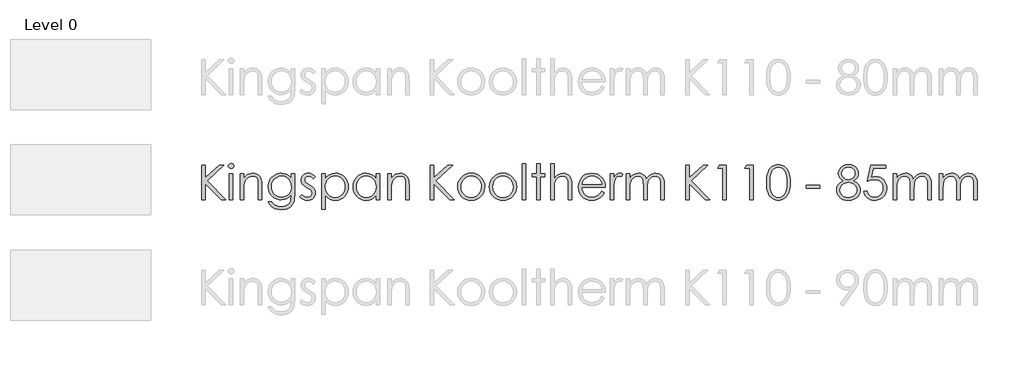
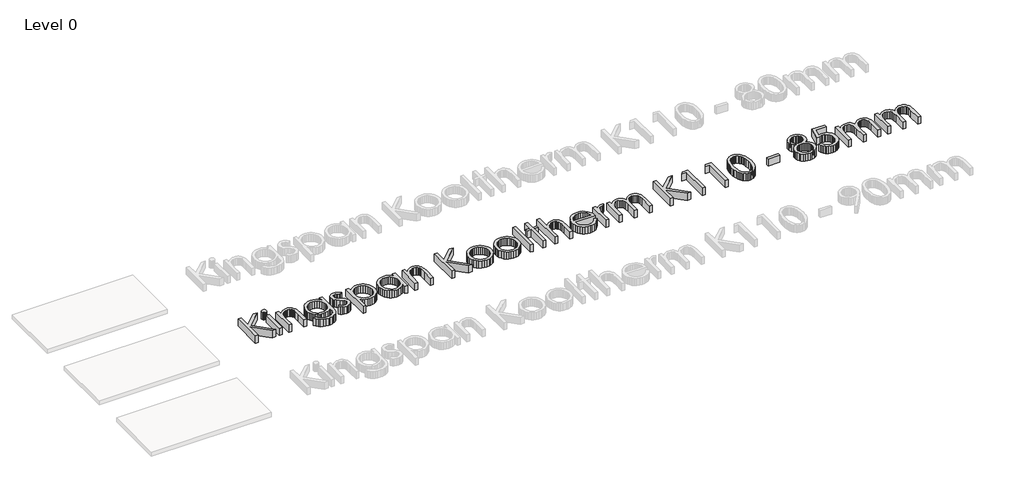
# One storey, part 5 of 9: 1 proxy.
"""IFC4 building model written with IfcOpenShell, lengths in millimetres."""

import ifcopenshell
import ifcopenshell.guid

model = None  # the IFC model being written
_history = None  # IfcOwnerHistory: only IFC2X3 demands one
_inside = {}  # id of a spatial element -> (the spatial element, [elements in it])
_under = {}  # id of a project, library or spatial element -> (it, [spatial elements below it])
_declared = {}  # id of a project -> (the project, [libraries it declares])
_typed = {}  # id of a type object -> (the type object, [elements of that type])
_made_of = {}  # id of a material, layer set ... -> (it, [elements and type objects made of it])


def new_model(schema):
    """Start an empty IFC model of exactly this schema.

    Asked for "IFC4X3", IfcOpenShell would pick the latest addendum, in which some entities
    have other attributes; the version numbers below select the first issue.
    IFC2X3 requires an IfcOwnerHistory on every rooted entity: one is made here for all.
    """
    global model, _history
    if schema == "IFC4X3":
        model = ifcopenshell.file(schema_version=(4, 3, 0, 0))
    else:
        model = ifcopenshell.file(schema=schema)
    _inside.clear()
    _under.clear()
    _declared.clear()
    _typed.clear()
    _made_of.clear()
    _history = None
    if model.schema == "IFC2X3":
        org = make("IfcOrganization", Name="unknown")
        user = make(
            "IfcPersonAndOrganization",
            ThePerson=make("IfcPerson", FamilyName="unknown"),
            TheOrganization=org,
        )
        app = make(
            "IfcApplication",
            ApplicationDeveloper=org,
            Version="unknown",
            ApplicationFullName="unknown",
            ApplicationIdentifier="unknown",
        )
        _history = make(
            "IfcOwnerHistory",
            OwningUser=user,
            OwningApplication=app,
            ChangeAction="ADDED",
            CreationDate=0,
        )
    return model


def make(cls, **values):
    """One entity of the class cls with the attributes given. An attribute that is None is left unset."""
    return model.create_entity(
        cls, **{name: value for name, value in values.items() if value is not None}
    )


def rooted(cls, **values):
    """An entity with a GlobalId (a new one), such as an element, a storey or a relation."""
    return make(cls, GlobalId=ifcopenshell.guid.new(), OwnerHistory=_history, **values)


def si_unit(unit_type, name, prefix=None):
    """IfcSIUnit, for example si_unit("LENGTHUNIT", "METRE", prefix="MILLI")."""
    return make("IfcSIUnit", UnitType=unit_type, Prefix=prefix, Name=name)


def assignment(units):
    """IfcUnitAssignment: the units of a project."""
    return None if units is None else make("IfcUnitAssignment", Units=units)


def point(xyz):
    """IfcCartesianPoint."""
    return None if xyz is None else make("IfcCartesianPoint", Coordinates=xyz)


def direction(xyz):
    """IfcDirection."""
    return None if xyz is None else make("IfcDirection", DirectionRatios=xyz)


def frame(location, z_axis=None, x_axis=None):
    """IfcAxis2Placement3D, a coordinate frame: its origin and axes. An axis left out is left unset."""
    return make(
        "IfcAxis2Placement3D",
        Location=point(location),
        Axis=direction(z_axis),
        RefDirection=direction(x_axis),
    )


def origin():
    """The frame at (0, 0, 0) with its axes left unset."""
    return frame((0.0, 0.0, 0.0))


def origin_with_axes():
    """The frame at (0, 0, 0) with the z axis (0, 0, 1) and the x axis (1, 0, 0) written out."""
    return frame((0.0, 0.0, 0.0), z_axis=(0.0, 0.0, 1.0), x_axis=(1.0, 0.0, 0.0))


def place(relative_to, where):
    """IfcLocalPlacement: puts the frame where relative to a parent placement (None: the world)."""
    return make(
        "IfcLocalPlacement", PlacementRelTo=relative_to, RelativePlacement=where
    )


def context(
    kind, dimensions, precision=None, world=None, true_north=None, identifier=None
):
    """IfcGeometricRepresentationContext, for example the 3D "Model" context."""
    return make(
        "IfcGeometricRepresentationContext",
        ContextIdentifier=identifier,
        ContextType=kind,
        CoordinateSpaceDimension=dimensions,
        Precision=precision,
        WorldCoordinateSystem=world,
        TrueNorth=true_north,
    )


def project(units=None, contexts=None):
    """IfcProject with its units and contexts."""
    return rooted(
        "IfcProject",
        Name="project",
        RepresentationContexts=contexts,
        UnitsInContext=assignment(units),
    )


def spatial(cls, under=None, at=None, **own):
    """A site, building, storey or space (cls), placed at a placement, below another one or the project."""
    s = rooted(cls, ObjectPlacement=at, **own)
    if under is not None:
        _under.setdefault(under.id(), (under, []))[1].append(s)
    return s


def polyline(points):
    """IfcPolyline through the points."""
    return make("IfcPolyline", Points=[point(p) for p in points])


def outline(outer, holes=None, kind="AREA"):
    """IfcArbitraryClosedProfileDef: a profile drawn as a closed curve; with holes, ...WithVoids."""
    if holes is None:
        return make("IfcArbitraryClosedProfileDef", ProfileType=kind, OuterCurve=outer)
    return make(
        "IfcArbitraryProfileDefWithVoids",
        ProfileType=kind,
        OuterCurve=outer,
        InnerCurves=holes,
    )


def extrude(swept, where, along, depth):
    """IfcExtrudedAreaSolid: the profile swept, set in the frame where, extruded along a direction by depth."""
    return make(
        "IfcExtrudedAreaSolid",
        SweptArea=swept,
        Position=where,
        ExtrudedDirection=direction(along),
        Depth=depth,
    )


def shape(context_of_items, identifier, shape_type, items):
    """IfcShapeRepresentation: the items that make up one representation, for example the "Body"."""
    return make(
        "IfcShapeRepresentation",
        ContextOfItems=context_of_items,
        RepresentationIdentifier=identifier,
        RepresentationType=shape_type,
        Items=items,
    )


def made_of(thing, what):
    """Note that an element or type object is made of a material, layer set ...; save() writes the relation."""
    if what is not None:
        _made_of.setdefault(what.id(), (what, []))[1].append(thing)
    return thing


def element(
    cls,
    number,
    at=None,
    inside=None,
    cuts=None,
    type_object=None,
    material=None,
    context=None,
    identifier="Body",
    shape_type=None,
    held_by="IfcProductDefinitionShape",
    body=None,
    shapes=None,
    **own,
):
    """One element of the class cls, such as IfcWall. Its Tag is "e" and its number.

    at: its placement. inside: the storey or other place that contains it. cuts: it is an
    opening in that element (IfcRelVoidsElement). A single representation is given by context,
    identifier, shape_type and body (its items); several are given by shapes. held_by: the class
    of the entity that holds the representations. save() writes the other relations.
    """
    e = rooted(cls, Tag="e%d" % number, ObjectPlacement=at, **own)
    if body is not None:
        shapes = [shape(context, identifier, shape_type, body)]
    if shapes is not None:
        e.Representation = make(held_by, Representations=shapes)
    if inside is not None:
        _inside.setdefault(inside.id(), (inside, []))[1].append(e)
    if cuts is not None:
        rooted(
            "IfcRelVoidsElement", RelatingBuildingElement=cuts, RelatedOpeningElement=e
        )
    if type_object is not None:
        _typed.setdefault(type_object.id(), (type_object, []))[1].append(e)
    return made_of(e, material)


def aggregate(whole, parts):
    """IfcRelAggregates: a whole, such as a stair, and the parts it consists of."""
    return rooted("IfcRelAggregates", RelatingObject=whole, RelatedObjects=parts)


def save(model, path):
    """Write the relations noted so far, then the file.

    IfcRelAggregates (storeys below a building ...), IfcRelContainedInSpatialStructure (elements
    in a storey), IfcRelDefinesByType, IfcRelAssociatesMaterial and IfcRelDeclares: one each for
    every whole, place, type object, material and project.
    """
    for whole, parts in _under.values():
        aggregate(whole, parts)
    for where, things in _inside.values():
        rooted(
            "IfcRelContainedInSpatialStructure",
            RelatedElements=things,
            RelatingStructure=where,
        )
    for kind, things in _typed.values():
        rooted("IfcRelDefinesByType", RelatedObjects=things, RelatingType=kind)
    for what, things in _made_of.values():
        rooted("IfcRelAssociatesMaterial", RelatedObjects=things, RelatingMaterial=what)
    for by, libraries in _declared.values():
        rooted("IfcRelDeclares", RelatingContext=by, RelatedDefinitions=libraries)
    model.write(path)


model = new_model("IFC4")

# Units and contexts
model_context = context("Model", 3, world=origin())
ifc_project = project(units=[si_unit("LENGTHUNIT", "METRE", prefix="MILLI")], contexts=[model_context])

# Site, building, storey
site = spatial("IfcSite", under=ifc_project)
building = spatial("IfcBuilding", under=site)
storey = spatial("IfcBuildingStorey", under=building, Name="Level 0", Elevation=0.0)

# Proxy
placement = place(None, origin())
element("IfcBuildingElementProxy", 1, Name="600mm KI_CenturyGothic", ObjectType="600mm KI_CenturyGothic", at=placement, inside=storey, context=model_context, shape_type="SweptSolid", body=[
    extrude(outline(polyline([(-3852.2663848, -1299.1034017), (-3792.944575, -1299.1034017), (-3792.944575, -1518.316027), (-3555.1938841, -1299.1034017), (-3471.6181051, -1299.1034017), (-3760.9664119, -1566.0515459), (-3441.9572002, -1892.3214999), (-3520.8984627, -1892.3214999), (-3792.944575, -1614.0960325), (-3792.944575, -1892.3214999), (-3852.2663848, -1892.3214999), (-3852.2663848, -1299.1034017)])), origin_with_axes(), (0.0, 0.0, 1.0), 150.0),
    extrude(outline(polyline([(-3348.1854852, -1269.4424967), (-3329.145347, -1272.7252792), (-3313.1176445, -1282.5736265), (-3302.226531, -1297.0178693), (-3298.5961598, -1314.088338), (-3302.226531, -1330.9270809), (-3313.1176445, -1345.2940817), (-3329.145347, -1355.142429), (-3348.1854852, -1358.4252115), (-3366.9938975, -1355.142429), (-3382.9443581, -1345.2940817), (-3393.8354717, -1330.9270809), (-3397.4658428, -1314.088338), (-3393.8354717, -1297.0178693), (-3382.9443581, -1282.5736265), (-3366.9938975, -1272.7252792), (-3348.1854852, -1269.4424967)])), origin_with_axes(), (0.0, 0.0, 1.0), 150.0),
    extrude(outline(polyline([(-3377.6919062, -1447.4079262), (-3318.3700964, -1447.4079262), (-3318.3700964, -1892.3214999), (-3377.6919062, -1892.3214999), (-3377.6919062, -1447.4079262)])), origin_with_axes(), (0.0, 0.0, 1.0), 150.0),
    extrude(outline(polyline([(-3189.8395084, -1447.4079262), (-3130.5176986, -1447.4079262), (-3130.5176986, -1526.5036726), (-3096.9946967, -1486.9944204), (-3060.0730495, -1459.303185), (-3019.7141359, -1442.9665147), (-2975.879335, -1437.5209579), (-2953.4357238, -1439.0995901), (-2932.2955704, -1443.8354865), (-2912.4588747, -1451.7286472), (-2893.9256368, -1462.7790723), (-2877.212412, -1476.5039994), (-2862.835756, -1492.4206667), (-2841.0921499, -1530.8292213), (-2833.6238199, -1555.2087086), (-2828.2892984, -1585.5551357), (-2824.0216812, -1664.1488095), (-2824.0216812, -1892.3214999), (-2883.343491, -1892.3214999), (-2883.343491, -1679.1337458), (-2883.343491, -1576.092998), (-2884.7290183, -1555.2956057), (-2889.8125035, -1537.2403023), (-2898.2849788, -1521.9270877), (-2910.1464442, -1509.355962), (-2924.7403432, -1499.5558909), (-2941.4101193, -1492.5558401), (-2980.977303, -1486.9557994), (-3005.3471351, -1489.1137461), (-3028.4038541, -1495.5875862), (-3050.1474602, -1506.3773197), (-3070.5779533, -1521.4829466), (-3088.6622225, -1539.7651482), (-3103.3671568, -1560.084606), (-3114.6927562, -1582.44132), (-3122.6390208, -1606.8352901), (-3128.5480292, -1653.9142525), (-3130.5176986, -1728.4141035), (-3130.5176986, -1892.3214999), (-3189.8395084, -1892.3214999), (-3189.8395084, -1447.4079262)])), origin_with_axes(), (0.0, 0.0, 1.0), 150.0),
    extrude(outline(polyline([(-2319.7862977, -1447.4079262), (-2260.4644879, -1447.4079262), (-2260.4644879, -1798.395301), (-2264.5196897, -1878.6496765), (-2269.588692, -1909.4499001), (-2276.6852953, -1934.0321474), (-2289.9371156, -1962.6454585), (-2307.2924139, -1987.7732271), (-2328.7511904, -2009.4154531), (-2354.3134448, -2027.5721366), (-2383.3226209, -2041.9343098), (-2415.122162, -2052.1930049), (-2449.7120682, -2058.348222), (-2487.0923395, -2060.3999611), (-2541.0458345, -2056.3833802), (-2589.206184, -2044.3336376), (-2630.260275, -2025.5059147), (-2662.8949946, -2001.1553932), (-2690.2000204, -1967.8061856), (-2715.2650299, -1921.9824048), (-2655.94322, -1921.9824048), (-2642.4355358, -1943.151524), (-2627.0933555, -1961.3951046), (-2609.9166791, -1976.7131468), (-2590.9055067, -1989.1056506), (-2569.7894914, -1998.6691682), (-2546.2982864, -2005.5002523), (-2492.1903075, -2010.9651195), (-2438.5071593, -2005.6354257), (-2415.083541, -1998.9733084), (-2393.93856, -1989.6463441), (-2359.6624492, -1965.6047903), (-2336.8567664, -1936.1176798), (-2329.3884364, -1917.4782342), (-2324.0539149, -1893.7697863), (-2319.7862977, -1831.1458835), (-2319.7862977, -1808.4367532), (-2354.757586, -1844.2190818), (-2396.6420279, -1870.6165148), (-2443.392712, -1886.8952536), (-2492.9627269, -1892.3214999), (-2522.4063889, -1890.4242447), (-2550.9521133, -1884.7324793), (-2578.5999001, -1875.2462036), (-2605.3497494, -1861.9654175), (-2630.1540674, -1845.4742634), (-2651.9652601, -1826.3568832), (-2670.7833277, -1804.6132772), (-2686.6082702, -1780.2434451), (-2699.1456025, -1753.9280817), (-2708.1008399, -1726.3478816), (-2713.4739824, -1697.5028447), (-2715.2650299, -1667.392971), (-2713.3967404, -1637.1044753), (-2707.7918722, -1607.8780563), (-2698.4504251, -1579.713714), (-2685.3723991, -1552.6114483), (-2668.9971079, -1527.4257483), (-2649.7638648, -1505.0111029), (-2627.67267, -1485.367512), (-2602.7235235, -1468.4949758), (-2575.9833294, -1454.943843), (-2548.5189922, -1445.2644624), (-2520.3305117, -1439.456834), (-2491.4178881, -1437.5209579), (-2444.5320306, -1442.4644421), (-2400.8903346, -1457.2948945), (-2359.6045177, -1483.8661218), (-2319.7862977, -1524.0319306), (-2319.7862977, -1447.4079262)]), holes=[polyline([(-2484.1571458, -1486.9557994), (-2529.0154023, -1492.9806707), (-2570.5908765, -1511.0552847), (-2606.2187212, -1539.7699758), (-2633.2340897, -1577.7150788), (-2650.2659375, -1621.9940208), (-2655.94322, -1669.7102292), (-2653.0080263, -1705.6229036), (-2644.2024452, -1738.2817613), (-2629.5264766, -1767.6868023), (-2608.9801206, -1793.8380266), (-2583.7606272, -1815.296803), (-2555.0652466, -1830.6245004), (-2522.8939786, -1839.8211189), (-2487.2468234, -1842.8866584), (-2451.3244937, -1839.845257), (-2419.1001219, -1830.7210528), (-2390.573708, -1815.5140459), (-2365.7452519, -1794.2242363), (-2345.6382095, -1767.9812872), (-2331.2760363, -1737.9148621), (-2322.6587323, -1704.024961), (-2319.7862977, -1666.3115838), (-2325.0773706, -1617.6105407), (-2340.9505892, -1574.3936754), (-2366.4983608, -1538.1672056), (-2400.8130926, -1510.4373492), (-2440.9982119, -1492.8261869), (-2484.1571458, -1486.9557994)])]), origin_with_axes(), (0.0, 0.0, 1.0), 150.0),
    extrude(outline(polyline([(-1904.5336289, -1498.6965743), (-1940.9918246, -1536.390641), (-1962.9575012, -1514.7628978), (-1984.6721416, -1499.3145098), (-2006.1357456, -1490.045477), (-2027.3483133, -1486.9557994), (-2052.181597, -1491.6289368), (-2073.2300256, -1505.6483489), (-2087.5970264, -1525.8857371), (-2092.3860267, -1549.212803), (-2088.4466878, -1570.7633042), (-2076.628671, -1591.2324183), (-2052.0657341, -1613.400855), (-2010.2006027, -1639.122421), (-1958.3326401, -1671.9888664), (-1939.8428507, -1687.8138088), (-1926.315856, -1703.2332311), (-1909.9791857, -1735.9065716), (-1904.5336289, -1772.4420092), (-1906.9474396, -1798.5884059), (-1914.1888714, -1822.6492701), (-1926.2579245, -1844.624602), (-1943.1545989, -1864.5144015), (-1963.6719892, -1881.0055557), (-1986.6031901, -1892.7849515), (-2011.9482016, -1899.852589), (-2039.7070237, -1902.2084682), (-2077.4397114, -1898.3270607), (-2113.3958344, -1886.6828383), (-2145.4512394, -1868.2027042), (-2171.4817731, -1843.8135617), (-2135.7959969, -1803.3387852), (-2114.0041146, -1824.9665283), (-2091.5749863, -1840.4149163), (-2068.5086121, -1849.6839491), (-2044.8049918, -1852.7736267), (-2013.637869, -1847.1349651), (-1987.4914724, -1830.2189802), (-1969.7644472, -1805.6560434), (-1963.8554388, -1777.0765256), (-1967.7561567, -1753.2860081), (-1979.4583106, -1732.2762005), (-2005.0253927, -1710.5712154), (-2050.2119275, -1683.7682622), (-2099.762632, -1653.1032121), (-2117.441381, -1637.9444814), (-2130.3890611, -1622.9016136), (-2146.3781427, -1590.7689666), (-2151.7078365, -1554.310771), (-2149.5305794, -1530.2643896), (-2142.9988078, -1508.3325063), (-2132.1125219, -1488.5151211), (-2116.8717217, -1470.812234), (-2098.309518, -1456.2473007), (-2077.4590218, -1445.8437769), (-2054.3202332, -1439.6016627), (-2028.8931521, -1437.5209579), (-1997.9481, -1441.3444339), (-1966.9064954, -1452.814862), (-1935.7683384, -1471.9322421), (-1904.5336289, -1498.6965743)])), origin_with_axes(), (0.0, 0.0, 1.0), 150.0),
    extrude(outline(polyline([(-1795.7769776, -1447.4079262), (-1736.4551678, -1447.4079262), (-1736.4551678, -1528.5119631), (-1700.9238754, -1488.2689124), (-1660.4490989, -1459.9211205), (-1614.9922173, -1443.1209986), (-1564.5146096, -1437.5209579), (-1520.0618732, -1441.7596094), (-1478.9305402, -1454.4755637), (-1441.1206107, -1475.668821), (-1406.6320845, -1505.3393811), (-1377.9077381, -1540.9768811), (-1357.3903478, -1580.070958), (-1345.0799137, -1622.6216116), (-1340.9764356, -1668.628842), (-1345.0412927, -1715.5291824), (-1357.235864, -1758.7508754), (-1377.5601494, -1798.293921), (-1406.014149, -1834.1583192), (-1440.2130179, -1863.9302594), (-1477.7719111, -1885.1959309), (-1518.6908288, -1897.9553339), (-1562.9697708, -1902.2084682), (-1612.6170277, -1896.743601), (-1658.0545988, -1880.3489992), (-1699.3211052, -1853.1019049), (-1736.4551678, -1815.07956), (-1736.4551678, -2050.5129928), (-1795.7769776, -2050.5129928), (-1795.7769776, -1447.4079262)]), holes=[polyline([(-1568.5311905, -1486.9557994), (-1602.5852307, -1490.2530647), (-1633.8392507, -1500.1448607), (-1662.2932503, -1516.6311872), (-1687.9472295, -1539.7120444), (-1709.1694525, -1567.6977647), (-1724.3281832, -1598.8986808), (-1733.4234216, -1633.3147926), (-1736.4551678, -1670.9461002), (-1731.048232, -1719.8016272), (-1714.8274246, -1763.4819442), (-1688.5265441, -1800.3263495), (-1652.8793888, -1828.6741414), (-1611.4390881, -1846.7487554), (-1567.7587711, -1852.7736267), (-1525.0632888, -1846.7101344), (-1485.0326535, -1828.5196576), (-1450.2544701, -1799.4187567), (-1423.3163435, -1760.6239924), (-1406.05277, -1715.9588407), (-1400.2982454, -1669.2467775), (-1405.9948385, -1622.3029886), (-1423.0846177, -1577.8695627), (-1449.8103289, -1539.5189395), (-1484.414718, -1510.8235589), (-1524.7157001, -1492.9227393), (-1568.5311905, -1486.9557994)])]), origin_with_axes(), (0.0, 0.0, 1.0), 150.0),
    extrude(outline(polyline([(-807.0801472, -1447.4079262), (-807.0801472, -1892.3214999), (-866.401957, -1892.3214999), (-866.401957, -1816.4699149), (-903.4780882, -1854.3184655), (-944.8797679, -1881.0441767), (-990.4525125, -1896.9173953), (-1040.0418379, -1902.2084682), (-1084.3159523, -1897.9553339), (-1125.2203871, -1885.1959309), (-1162.7551422, -1863.9302594), (-1196.9202178, -1834.1583192), (-1225.340424, -1798.293921), (-1245.6405713, -1758.7508754), (-1257.8206597, -1715.5291824), (-1261.8806892, -1668.628842), (-1257.7820388, -1622.6216116), (-1245.4860875, -1580.070958), (-1224.9928353, -1540.9768811), (-1196.3022822, -1505.3393811), (-1161.8475494, -1475.668821), (-1124.061758, -1454.4755637), (-1082.9449079, -1441.7596094), (-1038.4969991, -1437.5209579), (-987.7490446, -1443.1209986), (-942.0990581, -1459.9211205), (-921.2051134, -1472.6081091), (-901.6242816, -1488.2689124), (-866.401957, -1528.5119631), (-866.401957, -1447.4079262), (-807.0801472, -1447.4079262)]), holes=[polyline([(-1034.3259343, -1486.9557994), (-1078.1414247, -1492.9227393), (-1118.4424068, -1510.8235589), (-1153.0467959, -1539.5189395), (-1179.7725071, -1577.8695627), (-1196.8622863, -1622.3029886), (-1202.5588794, -1669.2467775), (-1196.8043548, -1715.9588407), (-1179.5407813, -1760.6239924), (-1152.6026548, -1799.4187567), (-1117.8244713, -1828.5196576), (-1077.6779731, -1846.7101344), (-1034.6349021, -1852.7736267), (-991.0125165, -1846.7487554), (-949.7460102, -1828.6741414), (-914.2726493, -1800.3263495), (-888.0297002, -1763.4819442), (-871.8088928, -1719.8016272), (-866.401957, -1670.9461002), (-869.4337032, -1633.3147926), (-878.5289416, -1598.8986808), (-893.6876723, -1567.6977647), (-914.9098953, -1539.7120444), (-940.5638746, -1516.6311872), (-969.0178742, -1500.1448607), (-1000.2718941, -1490.2530647), (-1034.3259343, -1486.9557994)])]), origin_with_axes(), (0.0, 0.0, 1.0), 150.0),
    extrude(outline(polyline([(-668.662591, -1447.4079262), (-609.3407811, -1447.4079262), (-609.3407811, -1526.5036726), (-575.8177792, -1486.9944204), (-538.896132, -1459.303185), (-498.5372184, -1442.9665147), (-454.7024175, -1437.5209579), (-432.2588064, -1439.0995901), (-411.1186529, -1443.8354865), (-391.2819572, -1451.7286472), (-372.7487193, -1462.7790723), (-356.0354946, -1476.5039994), (-341.6588385, -1492.4206667), (-319.9152324, -1530.8292213), (-312.4469024, -1555.2087086), (-307.1123809, -1585.5551357), (-302.8447637, -1664.1488095), (-302.8447637, -1892.3214999), (-362.1665735, -1892.3214999), (-362.1665735, -1679.1337458), (-362.1665735, -1576.092998), (-363.5521008, -1555.2956057), (-368.635586, -1537.2403023), (-377.1080613, -1521.9270877), (-388.9695267, -1509.355962), (-403.5634257, -1499.5558909), (-420.2332018, -1492.5558401), (-459.8003855, -1486.9557994), (-484.1702176, -1489.1137461), (-507.2269366, -1495.5875862), (-528.9705427, -1506.3773197), (-549.4010358, -1521.4829466), (-567.485305, -1539.7651482), (-582.1902393, -1560.084606), (-593.5158387, -1582.44132), (-601.4621033, -1606.8352901), (-607.3711117, -1653.9142525), (-609.3407811, -1728.4141035), (-609.3407811, -1892.3214999), (-668.662591, -1892.3214999), (-668.662591, -1447.4079262)])), origin_with_axes(), (0.0, 0.0, 1.0), 150.0),
    extrude(outline(polyline([(62.9730635, -1299.1034017), (122.2948734, -1299.1034017), (122.2948734, -1518.316027), (360.0455643, -1299.1034017), (443.6213432, -1299.1034017), (154.2730365, -1566.0515459), (473.2822481, -1892.3214999), (394.3409856, -1892.3214999), (122.2948734, -1614.0960325), (122.2948734, -1892.3214999), (62.9730635, -1892.3214999), (62.9730635, -1299.1034017)])), origin_with_axes(), (0.0, 0.0, 1.0), 150.0),
    extrude(outline(polyline([(760.1588128, -1437.5209579), (809.4681362, -1442.1458191), (854.3553585, -1456.0204025), (894.8204798, -1479.1447083), (930.8635, -1511.5187363), (957.7630055, -1546.7507161), (976.9769381, -1585.091684), (988.5052976, -1626.54164), (992.3480841, -1671.1005841), (988.283227, -1715.9153921), (976.0886558, -1757.8239721), (955.7643703, -1796.8263241), (927.3103707, -1832.9224481), (892.4742558, -1863.2350819), (853.0036246, -1884.8869632), (808.8984769, -1897.8780919), (760.1588128, -1902.2084682), (711.2839754, -1897.8780919), (667.0822753, -1884.8869632), (627.5537126, -1863.2350819), (592.6982872, -1832.9224481), (564.2442876, -1796.8263241), (543.9200022, -1757.8239721), (531.7254309, -1715.9153921), (527.6605738, -1671.1005841), (531.5033603, -1626.7347449), (543.0317198, -1585.4006518), (562.2456524, -1547.0983049), (589.145158, -1511.8277041), (625.2074886, -1479.3185026), (665.7305413, -1456.0976445), (710.7143161, -1442.1651295), (760.1588128, -1437.5209579)]), holes=[polyline([(760.004329, -1486.9557994), (725.7282181, -1490.3303067), (693.9624704, -1500.4538284), (664.7070856, -1517.3263647), (637.962064, -1540.9479154), (615.6584538, -1569.3584664), (599.7273037, -1600.5980035), (590.1686137, -1634.6665266), (586.9823836, -1671.5640357), (592.7948396, -1719.2995546), (610.2322075, -1763.6364281), (637.5758543, -1801.4270471), (673.1071466, -1829.5238028), (714.6439998, -1846.9611707), (760.004329, -1852.7736267), (805.3646581, -1846.9611707), (846.9015113, -1829.5238028), (882.4328037, -1801.4270471), (909.7764504, -1763.6364281), (927.2138183, -1719.2995546), (933.0262743, -1671.5640357), (929.8255614, -1634.6665266), (920.2234227, -1600.5980035), (904.2198583, -1569.3584664), (881.8148681, -1540.9479154), (854.9974321, -1517.3263647), (825.7565303, -1500.4538284), (794.0921625, -1490.3303067), (760.004329, -1486.9557994)])]), origin_with_axes(), (0.0, 0.0, 1.0), 150.0),
    extrude(outline(polyline([(1303.9420695, -1437.5209579), (1353.2513929, -1442.1458191), (1398.1386152, -1456.0204025), (1438.6037365, -1479.1447083), (1474.6467567, -1511.5187363), (1501.5462622, -1546.7507161), (1520.7601948, -1585.091684), (1532.2885543, -1626.54164), (1536.1313408, -1671.1005841), (1532.0664837, -1715.9153921), (1519.8719125, -1757.8239721), (1499.547627, -1796.8263241), (1471.0936274, -1832.9224481), (1436.2575126, -1863.2350819), (1396.7868813, -1884.8869632), (1352.6817336, -1897.8780919), (1303.9420695, -1902.2084682), (1255.0672321, -1897.8780919), (1210.865532, -1884.8869632), (1171.3369693, -1863.2350819), (1136.4815439, -1832.9224481), (1108.0275443, -1796.8263241), (1087.7032589, -1757.8239721), (1075.5086876, -1715.9153921), (1071.4438305, -1671.1005841), (1075.286617, -1626.7347449), (1086.8149766, -1585.4006518), (1106.0289091, -1547.0983049), (1132.9284147, -1511.8277041), (1168.9907453, -1479.3185026), (1209.5137981, -1456.0976445), (1254.4975728, -1442.1651295), (1303.9420695, -1437.5209579)]), holes=[polyline([(1303.7875857, -1486.9557994), (1269.5114748, -1490.3303067), (1237.7457271, -1500.4538284), (1208.4903423, -1517.3263647), (1181.7453207, -1540.9479154), (1159.4417105, -1569.3584664), (1143.5105604, -1600.5980035), (1133.9518704, -1634.6665266), (1130.7656404, -1671.5640357), (1136.5780963, -1719.2995546), (1154.0154643, -1763.6364281), (1181.359111, -1801.4270471), (1216.8904033, -1829.5238028), (1258.4272565, -1846.9611707), (1303.7875857, -1852.7736267), (1349.1479149, -1846.9611707), (1390.684768, -1829.5238028), (1426.2160604, -1801.4270471), (1453.5597071, -1763.6364281), (1470.997075, -1719.2995546), (1476.809531, -1671.5640357), (1473.6088181, -1634.6665266), (1464.0066795, -1600.5980035), (1448.003115, -1569.3584664), (1425.5981249, -1540.9479154), (1398.7806889, -1517.3263647), (1369.539787, -1500.4538284), (1337.8754193, -1490.3303067), (1303.7875857, -1486.9557994)])]), origin_with_axes(), (0.0, 0.0, 1.0), 150.0),
    extrude(outline(polyline([(1635.0010238, -1279.3294651), (1694.3228337, -1279.3294651), (1694.3228337, -1892.3214999), (1635.0010238, -1892.3214999), (1635.0010238, -1279.3294651)])), origin_with_axes(), (0.0, 0.0, 1.0), 150.0),
    extrude(outline(polyline([(1882.1752314, -1279.3294651), (1941.4970413, -1279.3294651), (1941.4970413, -1447.4079262), (2020.5927877, -1447.4079262), (2020.5927877, -1496.8427677), (1941.4970413, -1496.8427677), (1941.4970413, -1892.3214999), (1882.1752314, -1892.3214999), (1882.1752314, -1496.8427677), (1803.079485, -1496.8427677), (1803.079485, -1447.4079262), (1882.1752314, -1447.4079262), (1882.1752314, -1279.3294651)])), origin_with_axes(), (0.0, 0.0, 1.0), 150.0),
    extrude(outline(polyline([(2119.4624707, -1279.3294651), (2178.7842806, -1279.3294651), (2178.7842806, -1528.0485114), (2212.5583188, -1488.3461544), (2249.6151394, -1460.0756044), (2289.9161216, -1443.1596195), (2333.4226442, -1437.5209579), (2355.8662553, -1439.0995901), (2377.0064088, -1443.8354865), (2396.8431044, -1451.7286472), (2415.3763424, -1462.7790723), (2432.0895671, -1476.4895166), (2446.4662232, -1492.3627352), (2468.2098293, -1530.5974955), (2475.6781593, -1554.9045684), (2481.0126808, -1585.2654784), (2485.280298, -1664.1488095), (2485.280298, -1892.3214999), (2425.9584882, -1892.3214999), (2425.9584882, -1679.1337458), (2424.5681332, -1614.752589), (2420.3970685, -1576.092998), (2406.879729, -1537.2403023), (2397.1665551, -1521.9270877), (2385.4837117, -1509.355962), (2371.840854, -1499.5558909), (2356.2476374, -1492.5558401), (2319.2101273, -1486.9557994), (2296.3416854, -1489.1137461), (2274.6994594, -1495.5875862), (2254.2834492, -1506.3773197), (2235.0936547, -1521.4829466), (2218.1052556, -1539.7651482), (2204.2934312, -1560.084606), (2193.6581816, -1582.44132), (2186.1995068, -1606.8352901), (2180.6380871, -1653.6825267), (2178.7842806, -1728.4141035), (2178.7842806, -1892.3214999), (2119.4624707, -1892.3214999), (2119.4624707, -1279.3294651)])), origin_with_axes(), (0.0, 0.0, 1.0), 150.0),
    extrude(outline(polyline([(2991.0605203, -1744.0169753), (3038.950523, -1769.1978477), (3013.3255094, -1811.0822896), (2984.0315038, -1844.0452875), (2950.952643, -1869.1296074), (2913.9730643, -1887.3780157), (2872.4941426, -1898.5008551), (2825.9172528, -1902.2084682), (2774.4258447, -1897.7767119), (2728.8627554, -1884.481443), (2689.227985, -1862.3226615), (2655.5215335, -1831.3003674), (2628.6220279, -1794.6973431), (2609.4080954, -1755.7963712), (2597.8797358, -1714.5974515), (2594.0369493, -1671.1005841), (2597.3197318, -1630.2202874), (2607.1680791, -1591.618628), (2623.5819913, -1555.2956057), (2646.5614684, -1521.2512207), (2682.7493173, -1484.6192308), (2724.5758277, -1458.4535236), (2772.0409998, -1442.7540993), (2825.1448334, -1437.5209579), (2879.7935059, -1442.8892727), (2928.6490329, -1458.9942172), (2971.7114143, -1485.8357913), (3008.9806503, -1523.4139951), (3030.4539096, -1555.585263), (3045.9022976, -1591.541386), (3055.3258143, -1631.2823641), (3058.7244596, -1674.8081972), (2653.3587591, -1674.8081972), (2657.095338, -1712.0629503), (2666.6057518, -1745.8128504), (2681.8900007, -1776.0578975), (2702.9480845, -1802.7980916), (2728.3124066, -1824.6623882), (2756.5153699, -1840.2797429), (2787.5569744, -1849.6501557), (2821.4372203, -1852.7736267), (2854.9602222, -1849.761191), (2887.5563208, -1840.7238841), (2917.2944677, -1826.6851615), (2942.2436143, -1808.668479), (2965.725164, -1782.5027719), (2991.0605203, -1744.0169753)]), holes=[polyline([(2999.4026498, -1625.3733557), (2984.9777175, -1582.8516678), (2965.1844704, -1549.8307385), (2939.0766947, -1524.3022774), (2905.7081767, -1504.257994), (2867.7630738, -1491.2813481), (2827.9255433, -1486.9557994), (2795.503239, -1489.6689226), (2765.4368139, -1497.808292), (2737.726268, -1511.3739077), (2712.3716012, -1530.3657696), (2695.8321708, -1548.179692), (2681.4362043, -1569.9522638), (2669.1837016, -1595.683485), (2659.0746627, -1625.3733557), (2999.4026498, -1625.3733557)])]), origin_with_axes(), (0.0, 0.0, 1.0), 150.0),
    extrude(outline(polyline([(3137.820206, -1447.4079262), (3197.1420159, -1447.4079262), (3197.1420159, -1511.8277041), (3222.6897875, -1478.7874643), (3249.589293, -1455.6728138), (3277.7632906, -1442.0589219), (3307.1345382, -1437.5209579), (3330.4616041, -1441.305813), (3355.3335087, -1452.6603781), (3325.8270877, -1494.6799934), (3297.2475699, -1486.9557994), (3270.8308265, -1492.9034288), (3245.3409863, -1510.7463169), (3223.2884125, -1541.1023993), (3207.183468, -1584.5896114), (3199.6523789, -1642.7141712), (3197.1420159, -1740.1548783), (3197.1420159, -1892.3214999), (3137.820206, -1892.3214999), (3137.820206, -1447.4079262)])), origin_with_axes(), (0.0, 0.0, 1.0), 150.0),
    extrude(outline(polyline([(3414.6553185, -1447.4079262), (3473.9771284, -1447.4079262), (3473.9771284, -1523.5684789), (3503.5607913, -1487.0716623), (3533.9168737, -1461.9294109), (3577.3268439, -1443.6230712), (3622.8995884, -1437.5209579), (3653.7384329, -1440.668567), (3682.9165757, -1450.1113941), (3708.6767627, -1464.7873627), (3729.2617397, -1483.634396), (3746.0425511, -1509.0663047), (3760.3902414, -1543.4968994), (3775.16759, -1519.0981017), (3791.6925376, -1497.808292), (3809.965084, -1479.6274704), (3829.9852293, -1464.5556369), (3851.2798666, -1452.7279648), (3873.375889, -1444.2796277), (3896.2732965, -1439.2106253), (3919.9720892, -1437.5209579), (3962.3006723, -1443.3334139), (3981.4952943, -1450.5989839), (3999.3768034, -1460.7707818), (4015.4914031, -1473.53984), (4029.385297, -1488.5971907), (4050.5109676, -1525.5767694), (4057.8103309, -1548.9521114), (4063.0241619, -1577.5219739), (4067.1952266, -1650.2452603), (4067.1952266, -1892.3214999), (4007.8734168, -1892.3214999), (4007.8734168, -1646.6921311), (4005.4209852, -1585.5744462), (3998.0636904, -1547.1272706), (3984.7587663, -1522.6608861), (3964.4634466, -1503.4855746), (3938.3942919, -1491.0882432), (3907.7678627, -1486.9557994), (3888.1194443, -1488.5054659), (3869.3399976, -1493.1544651), (3834.3880198, -1511.7504621), (3805.6540182, -1540.6968791), (3785.8800816, -1577.9468046), (3779.1889985, -1602.1042213), (3774.4096535, -1633.1747916), (3770.5861775, -1716.0553931), (3770.5861775, -1892.3214999), (3711.2643677, -1892.3214999), (3711.2643677, -1661.9860352), (3708.850557, -1593.530366), (3701.6091252, -1551.2983353), (3688.3621325, -1525.0553863), (3667.9316394, -1504.5669617), (3641.6114484, -1491.35859), (3610.6953619, -1486.9557994), (3573.7544042, -1492.9999812), (3539.2465676, -1511.1325266), (3510.2808401, -1539.499629), (3489.9662099, -1576.2474819), (3477.9743988, -1628.0768236), (3473.9771284, -1701.6883923), (3473.9771284, -1892.3214999), (3414.6553185, -1892.3214999), (3414.6553185, -1447.4079262)])), origin_with_axes(), (0.0, 0.0, 1.0), 150.0),
    extrude(outline(polyline([(4433.0130538, -1299.1034017), (4492.3348637, -1299.1034017), (4492.3348637, -1518.316027), (4730.0855546, -1299.1034017), (4813.6613335, -1299.1034017), (4524.3130268, -1566.0515459), (4843.3222385, -1892.3214999), (4764.3809759, -1892.3214999), (4492.3348637, -1614.0960325), (4492.3348637, -1892.3214999), (4433.0130538, -1892.3214999), (4433.0130538, -1299.1034017)])), origin_with_axes(), (0.0, 0.0, 1.0), 150.0),
    extrude(outline(polyline([(5010.6282802, -1299.1034017), (5125.1008351, -1299.1034017), (5125.1008351, -1892.3214999), (5065.7790253, -1892.3214999), (5065.7790253, -1348.5382432), (4976.7963106, -1348.5382432), (5010.6282802, -1299.1034017)])), origin_with_axes(), (0.0, 0.0, 1.0), 150.0),
    extrude(outline(polyline([(5475.3157905, -1299.1034017), (5589.7883454, -1299.1034017), (5589.7883454, -1892.3214999), (5530.4665356, -1892.3214999), (5530.4665356, -1348.5382432), (5441.4838208, -1348.5382432), (5475.3157905, -1299.1034017)])), origin_with_axes(), (0.0, 0.0, 1.0), 150.0),
    extrude(outline(polyline([(5817.1886164, -1595.8669347), (5818.7672485, -1541.4355052), (5823.503145, -1493.5406748), (5831.3963057, -1452.1824436), (5842.4467307, -1417.3608116), (5856.374418, -1387.7192172), (5872.8993655, -1361.9010988), (5892.0215733, -1339.9064564), (5913.7410412, -1321.73529), (5937.4350063, -1307.5082902), (5962.4807053, -1297.3461475), (5988.8781382, -1291.2488619), (6016.6273051, -1289.2164334), (6044.8302684, -1291.2633448), (6071.6621873, -1297.404079), (6097.1230617, -1307.638636), (6121.2128917, -1321.9670159), (6143.3958113, -1340.3843909), (6163.1359546, -1362.8859335), (6180.4333215, -1389.4716437), (6195.2879121, -1420.1415214), (6207.2169642, -1455.6583309), (6215.7377157, -1496.7848363), (6220.8501666, -1543.5210375), (6222.5543169, -1595.8669347), (6220.8743047, -1648.0535203), (6215.8342681, -1694.6207548), (6207.4342071, -1735.5686382), (6195.6741218, -1770.8971704), (6180.9643599, -1801.4222195), (6163.7152692, -1827.9596535), (6143.9268497, -1850.5094723), (6121.5991014, -1869.071676), (6097.3403047, -1883.5690226), (6071.7587397, -1893.9242701), (6044.8544066, -1900.1374187), (6016.6273051, -1902.2084682), (5988.9022764, -1900.2001778), (5962.5772577, -1894.1753064), (5937.6522492, -1884.1338543), (5914.1272509, -1870.0758212), (5892.5526116, -1852.0398282), (5873.4786801, -1830.0644964), (5856.9054564, -1804.1498255), (5842.8329404, -1774.2958158), (5831.6135487, -1739.2762513), (5823.5996974, -1697.8649163), (5818.7913866, -1650.0618107), (5817.1886164, -1595.8669347)]), holes=[polyline([(5876.5104262, -1595.7124508), (5880.8939063, -1684.038609), (5886.3732564, -1719.0195525), (5894.0443466, -1747.8790723), (5903.8589006, -1772.1185586), (5915.7686422, -1793.2394015), (5929.7735714, -1811.2416011), (5945.8736882, -1826.1251574), (5981.1732547, -1846.1115094), (5999.5761469, -1851.1080973), (6018.4811117, -1852.7736267), (6037.4729737, -1851.1418907), (6055.8275896, -1846.2466828), (6090.6250835, -1826.665851), (6106.3824393, -1811.9898824), (6120.1315046, -1794.0697524), (6131.8722794, -1772.9054608), (6141.6047639, -1748.4970078), (6151.0669015, -1715.1381451), (6157.8255712, -1678.5544313), (6163.232507, -1595.7124508), (6158.4048858, -1514.1063413), (6152.3703592, -1479.4150551), (6143.9220221, -1448.7982811), (6133.3398763, -1422.135329), (6120.903924, -1399.3055082), (6106.6141651, -1380.3088186), (6090.4705997, -1365.1452603), (6055.402759, -1345.2747712), (6037.1736612, -1340.307149), (6018.4811117, -1338.6512749), (5999.4651116, -1340.307149), (5981.0380814, -1345.2747712), (5945.9509302, -1365.1452603), (5930.0052972, -1379.9564022), (5916.0776099, -1397.8958428), (5904.1678683, -1418.9635819), (5894.2760724, -1443.1596195), (5886.5036022, -1472.0143117), (5880.9518378, -1507.0580143), (5876.5104262, -1595.7124508)])]), origin_with_axes(), (0.0, 0.0, 1.0), 150.0),
    extrude(outline(polyline([(6499.3894294, -1645.1472923), (6726.7897004, -1645.1472923), (6726.7897004, -1694.5821338), (6499.3894294, -1694.5821338), (6499.3894294, -1645.1472923)])), origin_with_axes(), (0.0, 0.0, 1.0), 150.0),
    extrude(outline(polyline([(7304.095959, -1568.2143202), (7356.1956474, -1599.6131687), (7376.0178602, -1616.8477766), (7391.6883188, -1635.1058401), (7403.5835775, -1654.5225327), (7412.0801909, -1675.2330279), (7417.1781589, -1697.2373255), (7418.8774816, -1720.5354256), (7416.0581508, -1753.2184214), (7407.6001584, -1783.9124373), (7393.5035044, -1812.6174732), (7373.7681887, -1839.3335291), (7343.0741729, -1866.841315), (7306.4518381, -1886.4897334), (7263.9011845, -1898.2787845), (7215.422212, -1902.2084682), (7168.7584251, -1898.756719), (7128.100199, -1888.4014714), (7093.4475337, -1871.1427255), (7064.8004292, -1846.9804812), (7042.3616457, -1818.6664826), (7026.3339432, -1788.9524739), (7016.7173217, -1757.838455), (7013.5117812, -1725.3244259), (7015.2255867, -1701.5966675), (7020.3670033, -1679.0758144), (7028.936031, -1657.7618666), (7040.9326698, -1637.6548241), (7056.8300266, -1618.6871003), (7077.1012082, -1600.7911083), (7101.7462146, -1583.9668483), (7130.7650459, -1568.2143202), (7092.3951123, -1543.2651736), (7065.0321551, -1512.9090912), (7048.6375533, -1478.6522909), (7043.1726861, -1442.0009904), (7048.9658316, -1404.2876133), (7066.345268, -1367.4625184), (7093.9592615, -1334.9436618), (7130.4560781, -1310.1489991), (7173.055008, -1294.4495748), (7218.9753412, -1289.2164334), (7263.7177349, -1294.4881958), (7304.9456203, -1310.3034829), (7340.1486344, -1335.1753876), (7366.8164141, -1367.6170023), (7383.6165361, -1404.7510649), (7389.2165767, -1443.7003131), (7383.9061933, -1481.2398959), (7367.9750432, -1514.45393), (7341.3845054, -1543.4196575), (7304.095959, -1568.2143202)]), holes=[polyline([(7219.284309, -1595.7124508), (7189.4158164, -1598.2228138), (7162.067342, -1605.753903), (7137.238886, -1618.3057182), (7114.9304482, -1635.8782595), (7096.5130732, -1656.7818595), (7083.3578053, -1679.3268507), (7075.4646446, -1703.5132331), (7072.833591, -1729.3410068), (7077.332934, -1761.4543433), (7090.830963, -1791.6752522), (7112.4007747, -1817.6092335), (7141.1154658, -1836.8617871), (7175.9902017, -1848.7956668), (7216.0401475, -1852.7736267), (7247.2603741, -1850.3549884), (7275.110921, -1843.0990737), (7299.5917884, -1831.0058825), (7320.702976, -1814.0754148), (7337.7010304, -1793.9104409), (7349.8424979, -1772.113731), (7357.1273783, -1748.6852851), (7359.5556718, -1723.6251032), (7356.9873773, -1699.2938921), (7349.2824938, -1676.353036), (7336.4410213, -1654.8025348), (7318.4629598, -1634.6423885), (7296.8545271, -1617.6105407), (7273.1219411, -1605.4449352), (7247.2652017, -1598.1455719), (7219.284309, -1595.7124508)]), polyline([(7216.0401475, -1338.6512749), (7192.5344597, -1340.5099091), (7171.14327, -1346.0858116), (7151.8665783, -1355.3789825), (7134.7043848, -1368.3894217), (7120.6125584, -1383.9778107), (7110.5469681, -1401.0048308), (7104.507614, -1419.4704821), (7102.4944959, -1439.3747645), (7104.6620978, -1459.2838745), (7111.1649037, -1478.2274602), (7122.0029133, -1496.2055217), (7137.1761269, -1513.218059), (7155.236258, -1527.6816122), (7174.7350202, -1538.0127217), (7195.6724135, -1544.2113874), (7218.048438, -1546.2776093), (7246.7631291, -1542.5313752), (7273.8943605, -1531.2926729), (7297.3565997, -1513.5463372), (7315.0643144, -1490.2772028), (7326.1871538, -1464.2273586), (7329.8947669, -1438.1388934), (7328.0699261, -1419.9677271), (7322.5954036, -1402.5303592), (7313.4711994, -1385.8267897), (7300.6973136, -1369.8570186), (7284.4571958, -1356.2045057), (7264.9342955, -1346.4527108), (7242.1286127, -1340.6016339), (7216.0401475, -1338.6512749)])]), origin_with_axes(), (0.0, 0.0, 1.0), 150.0),
    extrude(outline(polyline([(7853.904087, -1299.1034017), (7853.904087, -1348.5382432), (7646.5867204, -1348.5382432), (7612.1368152, -1509.5104459), (7649.7150189, -1500.0096873), (7683.3538838, -1496.8427677), (7722.9403779, -1500.2655512), (7758.8965009, -1510.5339016), (7791.2222528, -1527.6478189), (7819.9176335, -1551.6073031), (7843.4378041, -1580.9157917), (7860.2379261, -1614.076722), (7870.3179992, -1651.090094), (7873.6780236, -1691.9559079), (7871.9545628, -1720.9216353), (7866.7841805, -1748.6514917), (7858.1668766, -1775.1454771), (7846.1026511, -1800.4035914), (7831.0984042, -1823.6051391), (7813.6610363, -1843.9294246), (7793.7905473, -1861.3764477), (7771.4869371, -1875.9462086), (7747.054346, -1887.4359472), (7720.7969141, -1895.6429033), (7692.7146413, -1900.567077), (7662.8075277, -1902.2084682), (7627.4741679, -1899.4518965), (7595.008415, -1891.1821813), (7565.4102692, -1877.3993226), (7538.6797304, -1858.1033205), (7515.9271515, -1834.4334936), (7498.2628853, -1807.5291604), (7485.686932, -1777.390321), (7478.1992914, -1744.0169753), (7537.5211013, -1744.0169753), (7547.0991018, -1776.7482474), (7561.6205865, -1802.6436077), (7581.4524546, -1822.9582379), (7606.9616052, -1838.9473194), (7635.9852641, -1849.3170499), (7666.360657, -1852.7736267), (7695.6498351, -1849.8480882), (7722.8052045, -1841.0714728), (7747.8267654, -1826.4437804), (7770.7145178, -1805.9650111), (7789.8077598, -1781.0931065), (7803.4457898, -1753.2860081), (7811.6286078, -1722.543716), (7814.3562138, -1688.8662303), (7811.8941269, -1658.6791146), (7804.5078664, -1631.4561585), (7792.1974323, -1607.1973617), (7774.9628244, -1585.9027244), (7753.6054281, -1568.5667365), (7728.9266283, -1556.183888), (7700.9264251, -1548.754179), (7669.6048185, -1546.2776093), (7640.8997825, -1548.1314158), (7609.3174844, -1553.6928355), (7537.5211013, -1575.9385142), (7596.8429111, -1299.1034017), (7853.904087, -1299.1034017)])), origin_with_axes(), (0.0, 0.0, 1.0), 150.0),
    extrude(outline(polyline([(7982.4346749, -1447.4079262), (8041.7564848, -1447.4079262), (8041.7564848, -1523.5684789), (8071.3401477, -1487.0716623), (8101.6962301, -1461.9294109), (8145.1062003, -1443.6230712), (8190.6789448, -1437.5209579), (8221.5177893, -1440.668567), (8250.6959321, -1450.1113941), (8276.4561191, -1464.7873627), (8297.0410961, -1483.634396), (8313.8219075, -1509.0663047), (8328.1695978, -1543.4968994), (8342.9469464, -1519.0981017), (8359.471894, -1497.808292), (8377.7444404, -1479.6274704), (8397.7645856, -1464.5556369), (8419.0592229, -1452.7279648), (8441.1552454, -1444.2796277), (8464.0526529, -1439.2106253), (8487.7514456, -1437.5209579), (8530.0800287, -1443.3334139), (8549.2746507, -1450.5989839), (8567.1561598, -1460.7707818), (8583.2707595, -1473.53984), (8597.1646534, -1488.5971907), (8618.290324, -1525.5767694), (8625.5896873, -1548.9521114), (8630.8035182, -1577.5219739), (8634.974583, -1650.2452603), (8634.974583, -1892.3214999), (8575.6527732, -1892.3214999), (8575.6527732, -1646.6921311), (8573.2003416, -1585.5744462), (8565.8430468, -1547.1272706), (8552.5381227, -1522.6608861), (8532.242803, -1503.4855746), (8506.1736483, -1491.0882432), (8475.5472191, -1486.9557994), (8455.8988006, -1488.5054659), (8437.119354, -1493.1544651), (8402.1673762, -1511.7504621), (8373.4333746, -1540.6968791), (8353.659438, -1577.9468046), (8346.9683549, -1602.1042213), (8342.1890099, -1633.1747916), (8338.3655339, -1716.0553931), (8338.3655339, -1892.3214999), (8279.0437241, -1892.3214999), (8279.0437241, -1661.9860352), (8276.6299134, -1593.530366), (8269.3884816, -1551.2983353), (8256.1414889, -1525.0553863), (8235.7109958, -1504.5669617), (8209.3908048, -1491.35859), (8178.4747183, -1486.9557994), (8141.5337606, -1492.9999812), (8107.025924, -1511.1325266), (8078.0601965, -1539.499629), (8057.7455663, -1576.2474819), (8045.7537552, -1628.0768236), (8041.7564848, -1701.6883923), (8041.7564848, -1892.3214999), (7982.4346749, -1892.3214999), (7982.4346749, -1447.4079262)])), origin_with_axes(), (0.0, 0.0, 1.0), 150.0),
    extrude(outline(polyline([(8773.3921393, -1447.4079262), (8832.7139491, -1447.4079262), (8832.7139491, -1523.5684789), (8862.2976121, -1487.0716623), (8892.6536944, -1461.9294109), (8936.0636646, -1443.6230712), (8981.6364092, -1437.5209579), (9012.4752537, -1440.668567), (9041.6533964, -1450.1113941), (9067.4135834, -1464.7873627), (9087.9985604, -1483.634396), (9104.7793718, -1509.0663047), (9119.1270621, -1543.4968994), (9133.9044108, -1519.0981017), (9150.4293583, -1497.808292), (9168.7019047, -1479.6274704), (9188.72205, -1464.5556369), (9210.0166873, -1452.7279648), (9232.1127097, -1444.2796277), (9255.0101172, -1439.2106253), (9278.7089099, -1437.5209579), (9321.037493, -1443.3334139), (9340.232115, -1450.5989839), (9358.1136241, -1460.7707818), (9374.2282238, -1473.53984), (9388.1221177, -1488.5971907), (9409.2477883, -1525.5767694), (9416.5471516, -1548.9521114), (9421.7609826, -1577.5219739), (9425.9320473, -1650.2452603), (9425.9320473, -1892.3214999), (9366.6102375, -1892.3214999), (9366.6102375, -1646.6921311), (9364.1578059, -1585.5744462), (9356.8005111, -1547.1272706), (9343.495587, -1522.6608861), (9323.2002673, -1503.4855746), (9297.1311126, -1491.0882432), (9266.5046834, -1486.9557994), (9246.856265, -1488.5054659), (9228.0768183, -1493.1544651), (9193.1248405, -1511.7504621), (9164.3908389, -1540.6968791), (9144.6169023, -1577.9468046), (9137.9258192, -1602.1042213), (9133.1464742, -1633.1747916), (9129.3229982, -1716.0553931), (9129.3229982, -1892.3214999), (9070.0011884, -1892.3214999), (9070.0011884, -1661.9860352), (9067.5873778, -1593.530366), (9060.3459459, -1551.2983353), (9047.0989532, -1525.0553863), (9026.6684601, -1504.5669617), (9000.3482691, -1491.35859), (8969.4321827, -1486.9557994), (8932.4912249, -1492.9999812), (8897.9833883, -1511.1325266), (8869.0176608, -1539.499629), (8848.7030306, -1576.2474819), (8836.7112195, -1628.0768236), (8832.7139491, -1701.6883923), (8832.7139491, -1892.3214999), (8773.3921393, -1892.3214999), (8773.3921393, -1447.4079262)])), origin_with_axes(), (0.0, 0.0, 1.0), 150.0),
])

save(model, "model.ifc")
